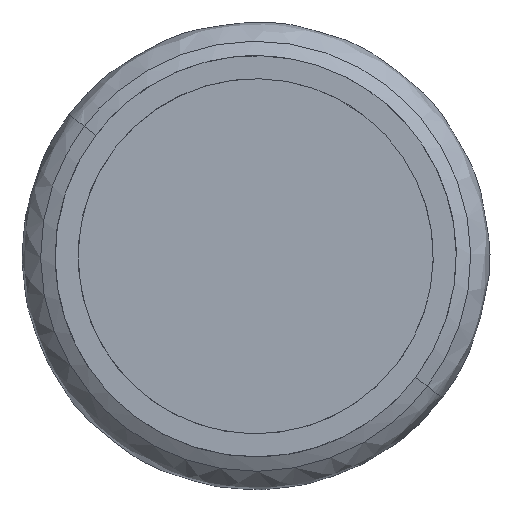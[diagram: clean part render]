
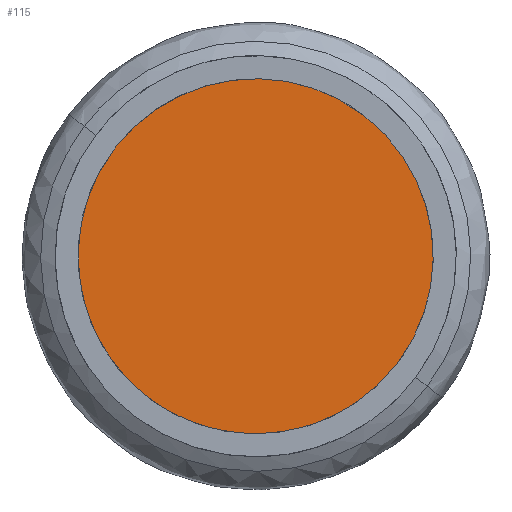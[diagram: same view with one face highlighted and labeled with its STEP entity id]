
A CAD part, left-side view. The second image highlights one B-rep face of the part: STEP entity #115.
In plain terms, the highlighted free-form (B-spline) face has degree [1, 1] with [2, 2] control points.
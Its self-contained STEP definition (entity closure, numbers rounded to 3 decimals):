
#115=ADVANCED_FACE('',(#235),#236,.T.);
#235=FACE_OUTER_BOUND('',#786,.T.);
#236=B_SPLINE_SURFACE_WITH_KNOTS('',1,1,((#787,#788),(#789,#790)),.UNSPECIFIED.,.F.,.F.,.F.,(2,2),(2,2),(0.0,31.7),(0.0,31.7),.UNSPECIFIED.);
#786=EDGE_LOOP('',(#1141,#1142,#1143));
#787=CARTESIAN_POINT('',(-7.5,-15.85,-15.85));
#788=CARTESIAN_POINT('',(-7.5,15.85,-15.85));
#789=CARTESIAN_POINT('',(-7.5,-15.85,15.85));
#790=CARTESIAN_POINT('',(-7.5,15.85,15.85));
#1141=ORIENTED_EDGE('',*,*,#1352,.T.);
#1142=ORIENTED_EDGE('',*,*,#1292,.T.);
#1143=ORIENTED_EDGE('',*,*,#1353,.T.);
#1292=EDGE_CURVE('',#1469,#1466,#1470,.T.);
#1352=EDGE_CURVE('',#1552,#1469,#1553,.T.);
#1353=EDGE_CURVE('',#1466,#1552,#1554,.T.);
#1466=VERTEX_POINT('',#1942);
#1469=VERTEX_POINT('',#1946);
#1470=(B_SPLINE_CURVE(2,(#1948,#1949,#1950,#1951,#1952),.UNSPECIFIED.,.F.,.F.)B_SPLINE_CURVE_WITH_KNOTS((3,2,3),(-1.571,0.,1.571),.UNSPECIFIED.)RATIONAL_B_SPLINE_CURVE((1.0,0.707,1.0,0.707,1.0))BOUNDED_CURVE()REPRESENTATION_ITEM('')GEOMETRIC_REPRESENTATION_ITEM()CURVE());
#1552=VERTEX_POINT('',#2187);
#1553=(B_SPLINE_CURVE(2,(#2189,#2190,#2191),.UNSPECIFIED.,.F.,.F.)B_SPLINE_CURVE_WITH_KNOTS((3,3),(-3.142,-1.571),.UNSPECIFIED.)RATIONAL_B_SPLINE_CURVE((1.0,0.707,1.0))BOUNDED_CURVE()REPRESENTATION_ITEM('')GEOMETRIC_REPRESENTATION_ITEM()CURVE());
#1554=(B_SPLINE_CURVE(2,(#2199,#2200,#2201),.UNSPECIFIED.,.F.,.F.)B_SPLINE_CURVE_WITH_KNOTS((3,3),(1.571,3.142),.UNSPECIFIED.)RATIONAL_B_SPLINE_CURVE((1.0,0.707,1.0))BOUNDED_CURVE()REPRESENTATION_ITEM('')GEOMETRIC_REPRESENTATION_ITEM()CURVE());
#1942=CARTESIAN_POINT('',(-7.5,-12.633,-9.573));
#1946=CARTESIAN_POINT('',(-7.5,12.633,9.573));
#1948=CARTESIAN_POINT('',(-7.5,12.633,9.573));
#1949=CARTESIAN_POINT('',(-7.5,22.205,-3.06));
#1950=CARTESIAN_POINT('',(-7.5,9.573,-12.633));
#1951=CARTESIAN_POINT('',(-7.5,-3.06,-22.205));
#1952=CARTESIAN_POINT('',(-7.5,-12.633,-9.573));
#2187=CARTESIAN_POINT('',(-7.5,-9.573,12.633));
#2189=CARTESIAN_POINT('',(-7.5,-9.573,12.633));
#2190=CARTESIAN_POINT('',(-7.5,3.06,22.205));
#2191=CARTESIAN_POINT('',(-7.5,12.633,9.573));
#2199=CARTESIAN_POINT('',(-7.5,-12.633,-9.573));
#2200=CARTESIAN_POINT('',(-7.5,-22.205,3.06));
#2201=CARTESIAN_POINT('',(-7.5,-9.573,12.633));
